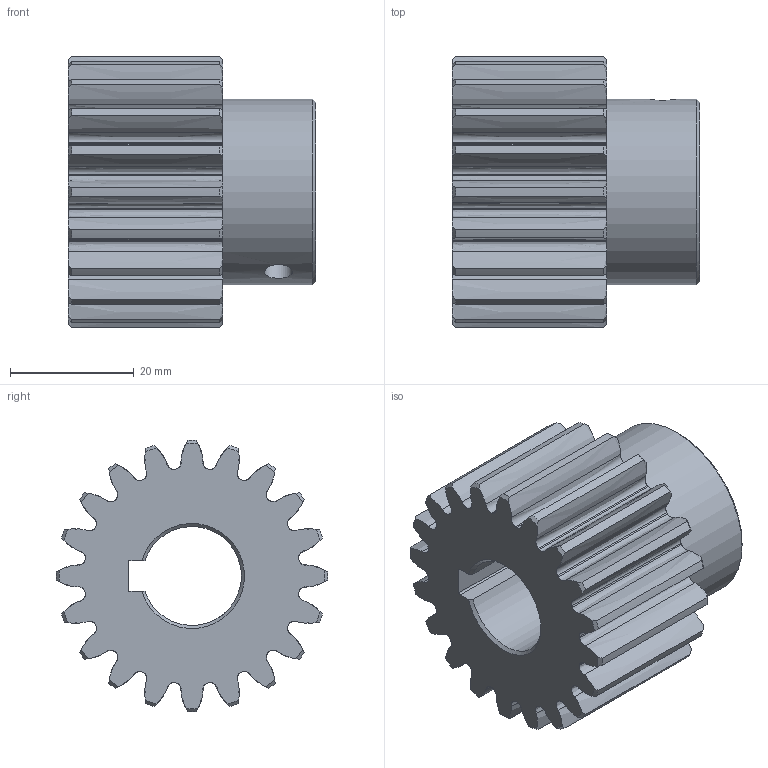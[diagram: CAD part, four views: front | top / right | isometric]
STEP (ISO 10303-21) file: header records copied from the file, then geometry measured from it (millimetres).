
FILE_DESCRIPTION(('STEP AP214'), '1');
FILE_NAME('GS2-T20D16 - Øåñòåðíÿ', '2018-02-16T11:12:20', (''), (''), 'ASCON STEP Converter 1.3', 'ASCON Math Kernel', '');
FILE_SCHEMA(('AUTOMOTIVE_DESIGN { 1 0 10303 214 3 1 1}'));
Length unit declared in the file: millimetre
Products named in the file (1): GS2-T20D16
Bounding box: 40 x 44 x 44 mm (x, y, z)
Volume: 32777.1 mm3; surface area: 11810.8 mm2
Topology: 1 solids, 1 shells, 175 faces, 515 edges, 343 vertices
Faces by surface type: extrusion 80, cylinder 46, cone 43, plane 6
Full cylindrical faces by diameter (mm): 4.458 x2, 30 x1
Entity records: 9222 total; most frequent: CARTESIAN_POINT 3402, ORIENTED_EDGE 1022, DIRECTION 668, EDGE_CURVE 511, VERTEX_POINT 343, B_SPLINE_CURVE_WITH_KNOTS 327, AXIS2_PLACEMENT_3D 228, VECTOR 212
